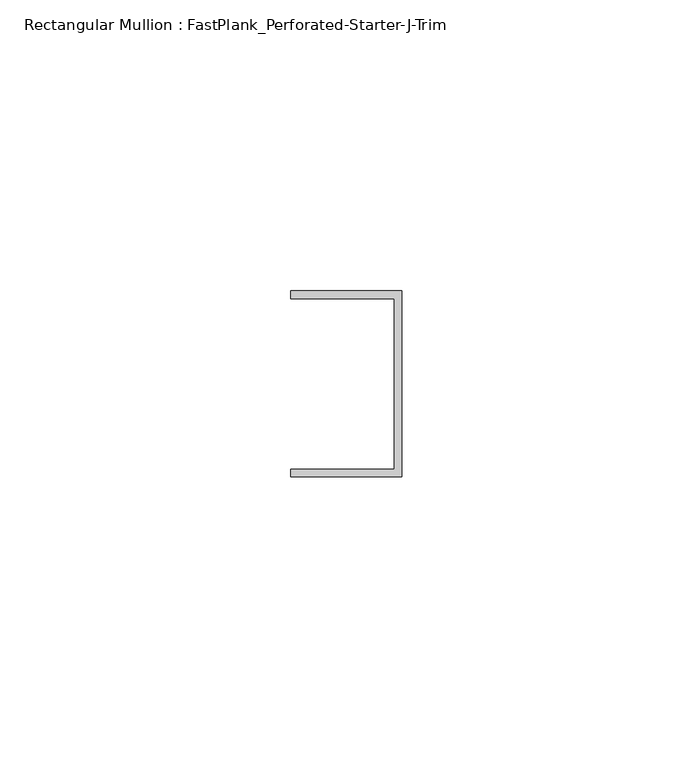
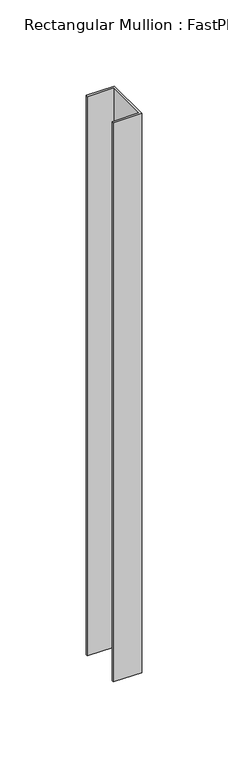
"""IFC4 building model written with IfcOpenShell, lengths in millimetres: member geometry, Rectangular Mullion : FastPlank_Perforated-Starter-J-Trim."""

import ifcopenshell
import ifcopenshell.guid

model = None  # the IFC model being written
_history = None  # IfcOwnerHistory: only IFC2X3 demands one
_inside = {}  # id of a spatial element -> (the spatial element, [elements in it])
_under = {}  # id of a project, library or spatial element -> (it, [spatial elements below it])
_declared = {}  # id of a project -> (the project, [libraries it declares])
_typed = {}  # id of a type object -> (the type object, [elements of that type])
_made_of = {}  # id of a material, layer set ... -> (it, [elements and type objects made of it])


def new_model(schema):
    """Start an empty IFC model of exactly this schema.

    Asked for "IFC4X3", IfcOpenShell would pick the latest addendum, in which some entities
    have other attributes; the version numbers below select the first issue.
    IFC2X3 requires an IfcOwnerHistory on every rooted entity: one is made here for all.
    """
    global model, _history
    if schema == "IFC4X3":
        model = ifcopenshell.file(schema_version=(4, 3, 0, 0))
    else:
        model = ifcopenshell.file(schema=schema)
    _inside.clear()
    _under.clear()
    _declared.clear()
    _typed.clear()
    _made_of.clear()
    _history = None
    if model.schema == "IFC2X3":
        org = make("IfcOrganization", Name="unknown")
        user = make(
            "IfcPersonAndOrganization",
            ThePerson=make("IfcPerson", FamilyName="unknown"),
            TheOrganization=org,
        )
        app = make(
            "IfcApplication",
            ApplicationDeveloper=org,
            Version="unknown",
            ApplicationFullName="unknown",
            ApplicationIdentifier="unknown",
        )
        _history = make(
            "IfcOwnerHistory",
            OwningUser=user,
            OwningApplication=app,
            ChangeAction="ADDED",
            CreationDate=0,
        )
    return model


def make(cls, **values):
    """One entity of the class cls with the attributes given. An attribute that is None is left unset."""
    return model.create_entity(
        cls, **{name: value for name, value in values.items() if value is not None}
    )


def rooted(cls, **values):
    """An entity with a GlobalId (a new one), such as an element, a storey or a relation."""
    return make(cls, GlobalId=ifcopenshell.guid.new(), OwnerHistory=_history, **values)


def si_unit(unit_type, name, prefix=None):
    """IfcSIUnit, for example si_unit("LENGTHUNIT", "METRE", prefix="MILLI")."""
    return make("IfcSIUnit", UnitType=unit_type, Prefix=prefix, Name=name)


def assignment(units):
    """IfcUnitAssignment: the units of a project."""
    return None if units is None else make("IfcUnitAssignment", Units=units)


def point(xyz):
    """IfcCartesianPoint."""
    return None if xyz is None else make("IfcCartesianPoint", Coordinates=xyz)


def direction(xyz):
    """IfcDirection."""
    return None if xyz is None else make("IfcDirection", DirectionRatios=xyz)


def frame(location, z_axis=None, x_axis=None):
    """IfcAxis2Placement3D, a coordinate frame: its origin and axes. An axis left out is left unset."""
    return make(
        "IfcAxis2Placement3D",
        Location=point(location),
        Axis=direction(z_axis),
        RefDirection=direction(x_axis),
    )


def origin():
    """The frame at (0, 0, 0) with its axes left unset."""
    return frame((0.0, 0.0, 0.0))


def place(relative_to, where):
    """IfcLocalPlacement: puts the frame where relative to a parent placement (None: the world)."""
    return make(
        "IfcLocalPlacement", PlacementRelTo=relative_to, RelativePlacement=where
    )


def context(
    kind, dimensions, precision=None, world=None, true_north=None, identifier=None
):
    """IfcGeometricRepresentationContext, for example the 3D "Model" context."""
    return make(
        "IfcGeometricRepresentationContext",
        ContextIdentifier=identifier,
        ContextType=kind,
        CoordinateSpaceDimension=dimensions,
        Precision=precision,
        WorldCoordinateSystem=world,
        TrueNorth=true_north,
    )


def project(units=None, contexts=None):
    """IfcProject with its units and contexts."""
    return rooted(
        "IfcProject",
        Name="project",
        RepresentationContexts=contexts,
        UnitsInContext=assignment(units),
    )


def spatial(cls, under=None, at=None, **own):
    """A site, building, storey or space (cls), placed at a placement, below another one or the project."""
    s = rooted(cls, ObjectPlacement=at, **own)
    if under is not None:
        _under.setdefault(under.id(), (under, []))[1].append(s)
    return s


def polyline(points):
    """IfcPolyline through the points."""
    return make("IfcPolyline", Points=[point(p) for p in points])


def outline(outer, holes=None, kind="AREA"):
    """IfcArbitraryClosedProfileDef: a profile drawn as a closed curve; with holes, ...WithVoids."""
    if holes is None:
        return make("IfcArbitraryClosedProfileDef", ProfileType=kind, OuterCurve=outer)
    return make(
        "IfcArbitraryProfileDefWithVoids",
        ProfileType=kind,
        OuterCurve=outer,
        InnerCurves=holes,
    )


def extrude(swept, where, along, depth):
    """IfcExtrudedAreaSolid: the profile swept, set in the frame where, extruded along a direction by depth."""
    return make(
        "IfcExtrudedAreaSolid",
        SweptArea=swept,
        Position=where,
        ExtrudedDirection=direction(along),
        Depth=depth,
    )


def shape(context_of_items, identifier, shape_type, items):
    """IfcShapeRepresentation: the items that make up one representation, for example the "Body"."""
    return make(
        "IfcShapeRepresentation",
        ContextOfItems=context_of_items,
        RepresentationIdentifier=identifier,
        RepresentationType=shape_type,
        Items=items,
    )


def source(mapping_origin, context_of_items, identifier, shape_type, items):
    """IfcRepresentationMap: a shape defined once, which mapped items show again and again."""
    return make(
        "IfcRepresentationMap",
        MappingOrigin=mapping_origin,
        MappedRepresentation=shape(context_of_items, identifier, shape_type, items),
    )


def transform(
    local_origin,
    x_axis=None,
    y_axis=None,
    z_axis=None,
    scale=None,
    scale2=None,
    scale3=None,
    uniform=True,
):
    """IfcCartesianTransformationOperator3D, or its non-uniform kind. x_axis, y_axis, z_axis: its Axis1, 2, 3."""
    if uniform:
        return make(
            "IfcCartesianTransformationOperator3D",
            Axis1=direction(x_axis),
            Axis2=direction(y_axis),
            LocalOrigin=point(local_origin),
            Scale=scale,
            Axis3=direction(z_axis),
        )
    return make(
        "IfcCartesianTransformationOperator3DnonUniform",
        Axis1=direction(x_axis),
        Axis2=direction(y_axis),
        LocalOrigin=point(local_origin),
        Scale=scale,
        Axis3=direction(z_axis),
        Scale2=scale2,
        Scale3=scale3,
    )


def mapped(mapping_source, mapping_target):
    """IfcMappedItem: shows the shape of a source again, moved by a transform."""
    return make(
        "IfcMappedItem", MappingSource=mapping_source, MappingTarget=mapping_target
    )


def made_of(thing, what):
    """Note that an element or type object is made of a material, layer set ...; save() writes the relation."""
    if what is not None:
        _made_of.setdefault(what.id(), (what, []))[1].append(thing)
    return thing


def element(
    cls,
    number,
    at=None,
    inside=None,
    cuts=None,
    type_object=None,
    material=None,
    context=None,
    identifier="Body",
    shape_type=None,
    held_by="IfcProductDefinitionShape",
    body=None,
    shapes=None,
    **own,
):
    """One element of the class cls, such as IfcWall. Its Tag is "e" and its number.

    at: its placement. inside: the storey or other place that contains it. cuts: it is an
    opening in that element (IfcRelVoidsElement). A single representation is given by context,
    identifier, shape_type and body (its items); several are given by shapes. held_by: the class
    of the entity that holds the representations. save() writes the other relations.
    """
    e = rooted(cls, Tag="e%d" % number, ObjectPlacement=at, **own)
    if body is not None:
        shapes = [shape(context, identifier, shape_type, body)]
    if shapes is not None:
        e.Representation = make(held_by, Representations=shapes)
    if inside is not None:
        _inside.setdefault(inside.id(), (inside, []))[1].append(e)
    if cuts is not None:
        rooted(
            "IfcRelVoidsElement", RelatingBuildingElement=cuts, RelatedOpeningElement=e
        )
    if type_object is not None:
        _typed.setdefault(type_object.id(), (type_object, []))[1].append(e)
    return made_of(e, material)


def aggregate(whole, parts):
    """IfcRelAggregates: a whole, such as a stair, and the parts it consists of."""
    return rooted("IfcRelAggregates", RelatingObject=whole, RelatedObjects=parts)


def save(model, path):
    """Write the relations noted so far, then the file.

    IfcRelAggregates (storeys below a building ...), IfcRelContainedInSpatialStructure (elements
    in a storey), IfcRelDefinesByType, IfcRelAssociatesMaterial and IfcRelDeclares: one each for
    every whole, place, type object, material and project.
    """
    for whole, parts in _under.values():
        aggregate(whole, parts)
    for where, things in _inside.values():
        rooted(
            "IfcRelContainedInSpatialStructure",
            RelatedElements=things,
            RelatingStructure=where,
        )
    for kind, things in _typed.values():
        rooted("IfcRelDefinesByType", RelatedObjects=things, RelatingType=kind)
    for what, things in _made_of.values():
        rooted("IfcRelAssociatesMaterial", RelatedObjects=things, RelatingMaterial=what)
    for by, libraries in _declared.values():
        rooted("IfcRelDeclares", RelatingContext=by, RelatedDefinitions=libraries)
    model.write(path)


def rectangular_mullion_fastplank_perforated_starter_j_trim_21be3d7d(model_context):
    return source(origin(), model_context, "Body", "SweptSolid", [
        extrude(outline(polyline([(0.0, -10.2620691), (-19.05, -10.2620691), (-19.05, -8.9620717), (-1.3000189, -8.9620717), (-1.3000189, 20.3412717), (-19.05, 20.3412717), (-19.05, 21.6412691), (0.0, 21.6412691), (0.0, -10.2620691)])), frame((0.0, 0.0, -396.8843345), z_axis=(0.0, 0.0, 1.0), x_axis=(1.0, 0.0, 0.0)), (0.0, 0.0, 1.0), 396.8843345),
    ])


if __name__ == "__main__":
    model = new_model("IFC4")
    model_context = context("Model", 3, world=origin())
    ifc_project = project(units=[si_unit("LENGTHUNIT", "METRE", prefix="MILLI")], contexts=[model_context])
    site = spatial("IfcSite", under=ifc_project)
    building = spatial("IfcBuilding", under=site)
    placement = place(None, origin())
    rectangular_mullion_fastplank_perforated_starter_j_trim_shape = rectangular_mullion_fastplank_perforated_starter_j_trim_21be3d7d(model_context)
    element("IfcMember", 1, ObjectType="Rectangular Mullion : FastPlank_Perforated-Starter-J-Trim", at=placement, inside=building, context=model_context, shape_type="MappedRepresentation", body=[
        mapped(rectangular_mullion_fastplank_perforated_starter_j_trim_shape, transform((0.0, 0.0, 0.0), x_axis=(1.0, 0.0, 0.0), y_axis=(0.0, 1.0, 0.0), z_axis=(0.0, 0.0, 1.0))),
    ])
    save(model, "model.ifc")
